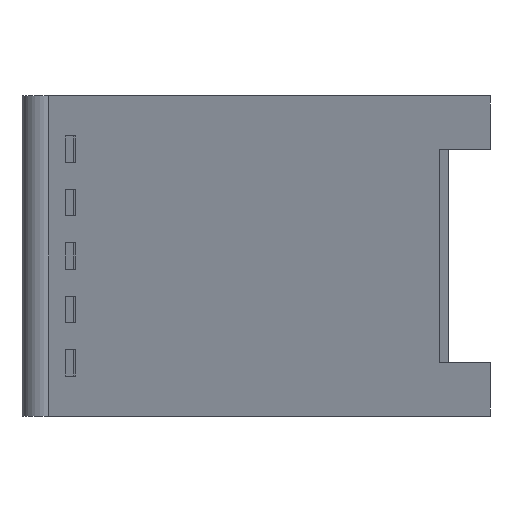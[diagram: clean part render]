
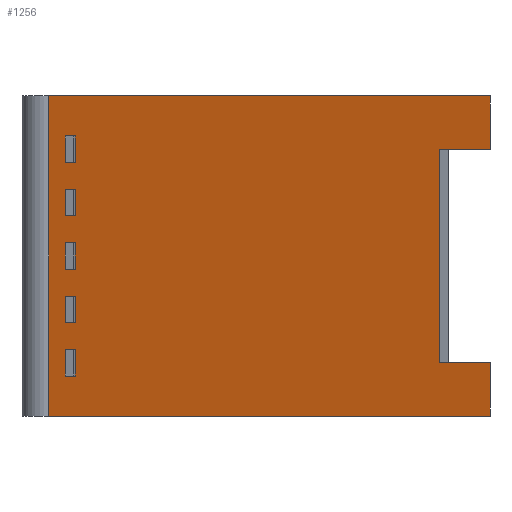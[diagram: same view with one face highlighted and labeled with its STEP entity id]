
A CAD part, left-side view. The second image highlights one B-rep face of the part: STEP entity #1256.
In plain terms, the highlighted planar face has unit normal (-0.94, 0.342, 0).
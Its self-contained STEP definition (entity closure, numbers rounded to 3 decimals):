
#26=FACE_BOUND('',#144,.T.);
#27=FACE_BOUND('',#145,.T.);
#28=FACE_BOUND('',#146,.T.);
#29=FACE_BOUND('',#147,.T.);
#30=FACE_BOUND('',#148,.T.);
#80=FACE_OUTER_BOUND('',#143,.T.);
#143=EDGE_LOOP('',(#1039,#1040,#1041,#1042,#1043,#1044,#1045,#1046));
#144=EDGE_LOOP('',(#1047,#1048,#1049,#1050));
#145=EDGE_LOOP('',(#1051,#1052,#1053,#1054));
#146=EDGE_LOOP('',(#1055,#1056,#1057,#1058));
#147=EDGE_LOOP('',(#1059,#1060,#1061,#1062));
#148=EDGE_LOOP('',(#1063,#1064,#1065,#1066));
#219=LINE('',#1769,#393);
#223=LINE('',#1776,#397);
#226=LINE('',#1782,#400);
#228=LINE('',#1785,#402);
#231=LINE('',#1793,#405);
#235=LINE('',#1800,#409);
#238=LINE('',#1806,#412);
#240=LINE('',#1809,#414);
#243=LINE('',#1817,#417);
#247=LINE('',#1824,#421);
#250=LINE('',#1830,#424);
#252=LINE('',#1833,#426);
#255=LINE('',#1841,#429);
#259=LINE('',#1848,#433);
#262=LINE('',#1854,#436);
#264=LINE('',#1857,#438);
#267=LINE('',#1865,#441);
#271=LINE('',#1872,#445);
#274=LINE('',#1878,#448);
#276=LINE('',#1881,#450);
#308=LINE('',#1943,#482);
#310=LINE('',#1947,#484);
#313=LINE('',#1952,#487);
#314=LINE('',#1955,#488);
#315=LINE('',#1957,#489);
#316=LINE('',#1959,#490);
#317=LINE('',#1961,#491);
#318=LINE('',#1962,#492);
#393=VECTOR('',#1447,12.5);
#397=VECTOR('',#1453,12.5);
#400=VECTOR('',#1458,12.5);
#402=VECTOR('',#1462,12.5);
#405=VECTOR('',#1467,12.5);
#409=VECTOR('',#1473,12.5);
#412=VECTOR('',#1478,12.5);
#414=VECTOR('',#1482,12.5);
#417=VECTOR('',#1487,12.5);
#421=VECTOR('',#1493,12.5);
#424=VECTOR('',#1498,12.5);
#426=VECTOR('',#1502,12.5);
#429=VECTOR('',#1507,12.5);
#433=VECTOR('',#1513,12.5);
#436=VECTOR('',#1518,12.5);
#438=VECTOR('',#1522,12.5);
#441=VECTOR('',#1527,12.5);
#445=VECTOR('',#1533,12.5);
#448=VECTOR('',#1538,12.5);
#450=VECTOR('',#1542,12.5);
#482=VECTOR('',#1588,12.5);
#484=VECTOR('',#1592,12.5);
#487=VECTOR('',#1597,12.5);
#488=VECTOR('',#1600,12.5);
#489=VECTOR('',#1601,12.5);
#490=VECTOR('',#1602,12.5);
#491=VECTOR('',#1603,12.5);
#492=VECTOR('',#1604,12.5);
#547=VERTEX_POINT('',#1766);
#548=VERTEX_POINT('',#1768);
#550=VERTEX_POINT('',#1774);
#552=VERTEX_POINT('',#1780);
#555=VERTEX_POINT('',#1790);
#556=VERTEX_POINT('',#1792);
#558=VERTEX_POINT('',#1798);
#560=VERTEX_POINT('',#1804);
#563=VERTEX_POINT('',#1814);
#564=VERTEX_POINT('',#1816);
#566=VERTEX_POINT('',#1822);
#568=VERTEX_POINT('',#1828);
#571=VERTEX_POINT('',#1838);
#572=VERTEX_POINT('',#1840);
#574=VERTEX_POINT('',#1846);
#576=VERTEX_POINT('',#1852);
#579=VERTEX_POINT('',#1862);
#580=VERTEX_POINT('',#1864);
#582=VERTEX_POINT('',#1870);
#584=VERTEX_POINT('',#1876);
#606=VERTEX_POINT('',#1940);
#607=VERTEX_POINT('',#1942);
#608=VERTEX_POINT('',#1946);
#609=VERTEX_POINT('',#1950);
#610=VERTEX_POINT('',#1954);
#611=VERTEX_POINT('',#1956);
#612=VERTEX_POINT('',#1958);
#613=VERTEX_POINT('',#1960);
#679=EDGE_CURVE('',#548,#547,#219,.T.);
#683=EDGE_CURVE('',#547,#550,#223,.T.);
#686=EDGE_CURVE('',#550,#552,#226,.T.);
#688=EDGE_CURVE('',#552,#548,#228,.T.);
#691=EDGE_CURVE('',#556,#555,#231,.T.);
#695=EDGE_CURVE('',#555,#558,#235,.T.);
#698=EDGE_CURVE('',#558,#560,#238,.T.);
#700=EDGE_CURVE('',#560,#556,#240,.T.);
#703=EDGE_CURVE('',#564,#563,#243,.T.);
#707=EDGE_CURVE('',#563,#566,#247,.T.);
#710=EDGE_CURVE('',#566,#568,#250,.T.);
#712=EDGE_CURVE('',#568,#564,#252,.T.);
#715=EDGE_CURVE('',#572,#571,#255,.T.);
#719=EDGE_CURVE('',#571,#574,#259,.T.);
#722=EDGE_CURVE('',#574,#576,#262,.T.);
#724=EDGE_CURVE('',#576,#572,#264,.T.);
#727=EDGE_CURVE('',#580,#579,#267,.T.);
#731=EDGE_CURVE('',#579,#582,#271,.T.);
#734=EDGE_CURVE('',#582,#584,#274,.T.);
#736=EDGE_CURVE('',#584,#580,#276,.T.);
#768=EDGE_CURVE('',#607,#606,#308,.T.);
#770=EDGE_CURVE('',#608,#607,#310,.T.);
#773=EDGE_CURVE('',#609,#608,#313,.T.);
#774=EDGE_CURVE('',#606,#610,#314,.T.);
#775=EDGE_CURVE('',#611,#610,#315,.T.);
#776=EDGE_CURVE('',#612,#611,#316,.T.);
#777=EDGE_CURVE('',#613,#612,#317,.T.);
#778=EDGE_CURVE('',#613,#609,#318,.T.);
#1039=ORIENTED_EDGE('',*,*,#773,.T.);
#1040=ORIENTED_EDGE('',*,*,#770,.T.);
#1041=ORIENTED_EDGE('',*,*,#768,.T.);
#1042=ORIENTED_EDGE('',*,*,#774,.T.);
#1043=ORIENTED_EDGE('',*,*,#775,.F.);
#1044=ORIENTED_EDGE('',*,*,#776,.F.);
#1045=ORIENTED_EDGE('',*,*,#777,.F.);
#1046=ORIENTED_EDGE('',*,*,#778,.T.);
#1047=ORIENTED_EDGE('',*,*,#679,.T.);
#1048=ORIENTED_EDGE('',*,*,#683,.T.);
#1049=ORIENTED_EDGE('',*,*,#686,.T.);
#1050=ORIENTED_EDGE('',*,*,#688,.T.);
#1051=ORIENTED_EDGE('',*,*,#691,.T.);
#1052=ORIENTED_EDGE('',*,*,#695,.T.);
#1053=ORIENTED_EDGE('',*,*,#698,.T.);
#1054=ORIENTED_EDGE('',*,*,#700,.T.);
#1055=ORIENTED_EDGE('',*,*,#703,.T.);
#1056=ORIENTED_EDGE('',*,*,#707,.T.);
#1057=ORIENTED_EDGE('',*,*,#710,.T.);
#1058=ORIENTED_EDGE('',*,*,#712,.T.);
#1059=ORIENTED_EDGE('',*,*,#715,.T.);
#1060=ORIENTED_EDGE('',*,*,#719,.T.);
#1061=ORIENTED_EDGE('',*,*,#722,.T.);
#1062=ORIENTED_EDGE('',*,*,#724,.T.);
#1063=ORIENTED_EDGE('',*,*,#727,.T.);
#1064=ORIENTED_EDGE('',*,*,#731,.T.);
#1065=ORIENTED_EDGE('',*,*,#734,.T.);
#1066=ORIENTED_EDGE('',*,*,#736,.T.);
#1200=PLANE('',#1328);
#1256=ADVANCED_FACE('',(#80,#26,#27,#28,#29,#30),#1200,.T.);
#1328=AXIS2_PLACEMENT_3D('',#1953,#1598,#1599);
#1447=DIRECTION('',(-0.342,-0.94,0.));
#1453=DIRECTION('',(0.,0.,-1.));
#1458=DIRECTION('',(0.342,0.94,0.));
#1462=DIRECTION('',(0.,0.,1.));
#1467=DIRECTION('',(-0.342,-0.94,0.));
#1473=DIRECTION('',(0.,0.,-1.));
#1478=DIRECTION('',(0.342,0.94,0.));
#1482=DIRECTION('',(0.,0.,1.));
#1487=DIRECTION('',(-0.342,-0.94,0.));
#1493=DIRECTION('',(0.,0.,-1.));
#1498=DIRECTION('',(0.342,0.94,0.));
#1502=DIRECTION('',(0.,0.,1.));
#1507=DIRECTION('',(-0.342,-0.94,0.));
#1513=DIRECTION('',(0.,0.,-1.));
#1518=DIRECTION('',(0.342,0.94,0.));
#1522=DIRECTION('',(0.,0.,1.));
#1527=DIRECTION('',(-0.342,-0.94,0.));
#1533=DIRECTION('',(0.,0.,-1.));
#1538=DIRECTION('',(0.342,0.94,0.));
#1542=DIRECTION('',(0.,0.,1.));
#1588=DIRECTION('',(-0.342,-0.94,0.));
#1592=DIRECTION('',(0.,0.,1.));
#1597=DIRECTION('',(0.342,0.94,0.));
#1598=DIRECTION('center_axis',(-0.94,0.342,0.));
#1599=DIRECTION('ref_axis',(-0.342,-0.94,0.));
#1600=DIRECTION('',(0.,0.,1.));
#1601=DIRECTION('',(-0.342,-0.94,0.));
#1602=DIRECTION('',(0.,0.,1.));
#1603=DIRECTION('',(0.342,0.94,0.));
#1604=DIRECTION('',(0.,0.,1.));
#1766=CARTESIAN_POINT('',(17.687,48.595,12.813));
#1768=CARTESIAN_POINT('',(18.114,49.769,12.813));
#1769=CARTESIAN_POINT('',(18.252,50.148,12.813));
#1774=CARTESIAN_POINT('',(17.687,48.595,9.688));
#1776=CARTESIAN_POINT('',(17.687,48.595,1.094));
#1780=CARTESIAN_POINT('',(18.114,49.769,9.688));
#1782=CARTESIAN_POINT('',(18.466,50.735,9.688));
#1785=CARTESIAN_POINT('',(18.114,49.769,2.656));
#1790=CARTESIAN_POINT('',(17.687,48.595,19.063));
#1792=CARTESIAN_POINT('',(18.114,49.769,19.063));
#1793=CARTESIAN_POINT('',(18.252,50.148,19.063));
#1798=CARTESIAN_POINT('',(17.687,48.595,15.938));
#1800=CARTESIAN_POINT('',(17.687,48.595,4.219));
#1804=CARTESIAN_POINT('',(18.114,49.769,15.938));
#1806=CARTESIAN_POINT('',(18.466,50.735,15.938));
#1809=CARTESIAN_POINT('',(18.114,49.769,5.781));
#1814=CARTESIAN_POINT('',(17.687,48.595,6.563));
#1816=CARTESIAN_POINT('',(18.114,49.769,6.563));
#1817=CARTESIAN_POINT('',(18.252,50.148,6.563));
#1822=CARTESIAN_POINT('',(17.687,48.595,3.438));
#1824=CARTESIAN_POINT('',(17.687,48.595,-2.031));
#1828=CARTESIAN_POINT('',(18.114,49.769,3.438));
#1830=CARTESIAN_POINT('',(18.466,50.735,3.438));
#1833=CARTESIAN_POINT('',(18.114,49.769,-0.469));
#1838=CARTESIAN_POINT('',(17.687,48.595,25.313));
#1840=CARTESIAN_POINT('',(18.114,49.769,25.313));
#1841=CARTESIAN_POINT('',(18.252,50.148,25.313));
#1846=CARTESIAN_POINT('',(17.687,48.595,22.188));
#1848=CARTESIAN_POINT('',(17.687,48.595,7.344));
#1852=CARTESIAN_POINT('',(18.114,49.769,22.188));
#1854=CARTESIAN_POINT('',(18.466,50.735,22.188));
#1857=CARTESIAN_POINT('',(18.114,49.769,8.906));
#1862=CARTESIAN_POINT('',(17.687,48.595,0.313));
#1864=CARTESIAN_POINT('',(18.114,49.769,0.313));
#1865=CARTESIAN_POINT('',(18.252,50.148,0.313));
#1870=CARTESIAN_POINT('',(17.687,48.595,-2.813));
#1872=CARTESIAN_POINT('',(17.687,48.595,-5.156));
#1876=CARTESIAN_POINT('',(18.114,49.769,-2.813));
#1878=CARTESIAN_POINT('',(18.466,50.735,-2.813));
#1881=CARTESIAN_POINT('',(18.114,49.769,-3.594));
#1940=CARTESIAN_POINT('',(0.,0.,23.75));
#1942=CARTESIAN_POINT('',(2.138,5.873,23.75));
#1943=CARTESIAN_POINT('',(10.478,28.787,23.75));
#1946=CARTESIAN_POINT('',(2.138,5.873,-1.25));
#1947=CARTESIAN_POINT('',(2.138,5.873,-4.375));
#1950=CARTESIAN_POINT('',(0.,0.,-1.25));
#1952=CARTESIAN_POINT('',(9.409,25.85,-1.25));
#1953=CARTESIAN_POINT('Origin',(18.818,51.701,-7.5));
#1954=CARTESIAN_POINT('',(0.,0.,30.));
#1955=CARTESIAN_POINT('',(0.,0.,-7.5));
#1956=CARTESIAN_POINT('',(18.818,51.701,30.));
#1957=CARTESIAN_POINT('',(0.,0.,30.));
#1958=CARTESIAN_POINT('',(18.818,51.701,-7.5));
#1959=CARTESIAN_POINT('',(18.818,51.701,-7.5));
#1960=CARTESIAN_POINT('',(0.,0.,-7.5));
#1961=CARTESIAN_POINT('',(0.,0.,-7.5));
#1962=CARTESIAN_POINT('',(0.,0.,-7.5));
